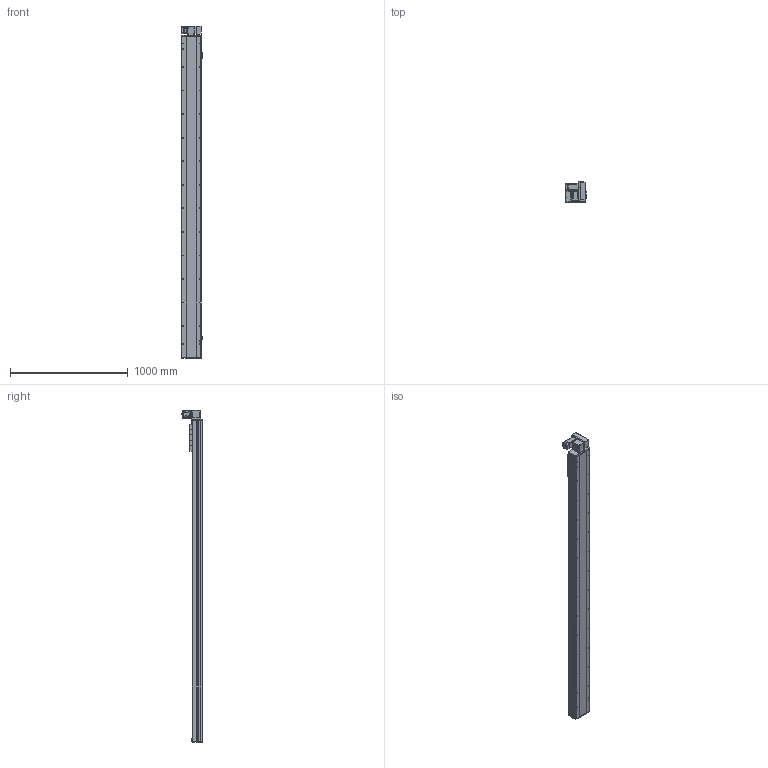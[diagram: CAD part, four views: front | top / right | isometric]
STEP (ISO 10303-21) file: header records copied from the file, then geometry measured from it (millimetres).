
FILE_DESCRIPTION (( 'STEP AP214' ), '1' );
FILE_NAME ('TPE17-L40-2400-RU-T40-C4.STEP', '2023-04-12T08:09:53', ( '' ), ( '' ), 'SwSTEP 2.0', 'SolidWorks 2020', '' );
FILE_SCHEMA (( 'AUTOMOTIVE_DESIGN' ));
Length unit declared in the file: millimetre
Products named in the file (12): 葩璃 TPT14-L-009 萇儂啣^TPE17-L40-RU-T40-C4_400W; 葩璃 侂狟400W^TPE17-L40-RU-T40-C4; 葩璃 TPE17-L-007 々湍釱MZ-169x88^TPE17-L40-RU-T40-C4_TPE17; TPE17-L40-2400-RU-T40-C4; 葩璃 TPE17 賑雄殤^TPE17-L40-RU-T40-C4; 葩璃 TPE17-L-002 耜裔ZTMZ-135-04^TPE17-L40-RU-T40-C4; hexagon socket head cap screws gb_GB_FASTENER_SCREWS_HSHCS M3X6-N; hexagon head bolts-full thread gb_GB_FASTENER_BOLT_STBAB A M5X16-N; 葩璃 詩湍110^TPE17-L40-RU-T40-C4; 葩璃 pm-t65-672^TPE17-L40-RU-T40-C4; 葩璃 TPE17-L-001 菁釱MZ-170-01^TPE17-L40-RU-T40-C4; hex nuts, style 1-grades ab gb_GB_FASTENER_NUT_SNAB1 M3-N
Assembly tree (24 placements, depth 2):
  TPE17-L40-2400-RU-T40-C4
    葩璃 TPE17-L-001 菁釱MZ-170-01^TPE17-L40-RU-T40-C4
    葩璃 TPE17-L-002 耜裔ZTMZ-135-04^TPE17-L40-RU-T40-C4  x2
    葩璃 詩湍110^TPE17-L40-RU-T40-C4
    葩璃 TPE17-L-007 々湍釱MZ-169x88^TPE17-L40-RU-T40-C4_TPE17
    葩璃 TPT14-L-009 萇儂啣^TPE17-L40-RU-T40-C4_400W
    葩璃 TPE17 賑雄殤^TPE17-L40-RU-T40-C4
    葩璃 pm-t65-672^TPE17-L40-RU-T40-C4  x3
    葩璃 侂狟400W^TPE17-L40-RU-T40-C4
    hexagon socket head cap screws gb_GB_FASTENER_SCREWS_HSHCS M3X6-N  x6
    hex nuts, style 1-grades ab gb_GB_FASTENER_NUT_SNAB1 M3-N  x6
    hexagon head bolts-full thread gb_GB_FASTENER_BOLT_STBAB A M5X16-N
Bounding box: 186.2 x 173.15 x 2819 mm (x, y, z)
Volume: 24821650.6 mm3; surface area: 3131673.7 mm2
Topology: 35 solids, 35 shells, 1754 faces, 4467 edges, 2798 vertices
Faces by surface type: plane 981, cylinder 493, cone 234, bspline 34, torus 12
Entity records: 41615 total; most frequent: CARTESIAN_POINT 8058, DIRECTION 6672, ORIENTED_EDGE 6406, EDGE_CURVE 3203, AXIS2_PLACEMENT_3D 2285, VECTOR 2102, LINE 2102, VERTEX_POINT 2061
